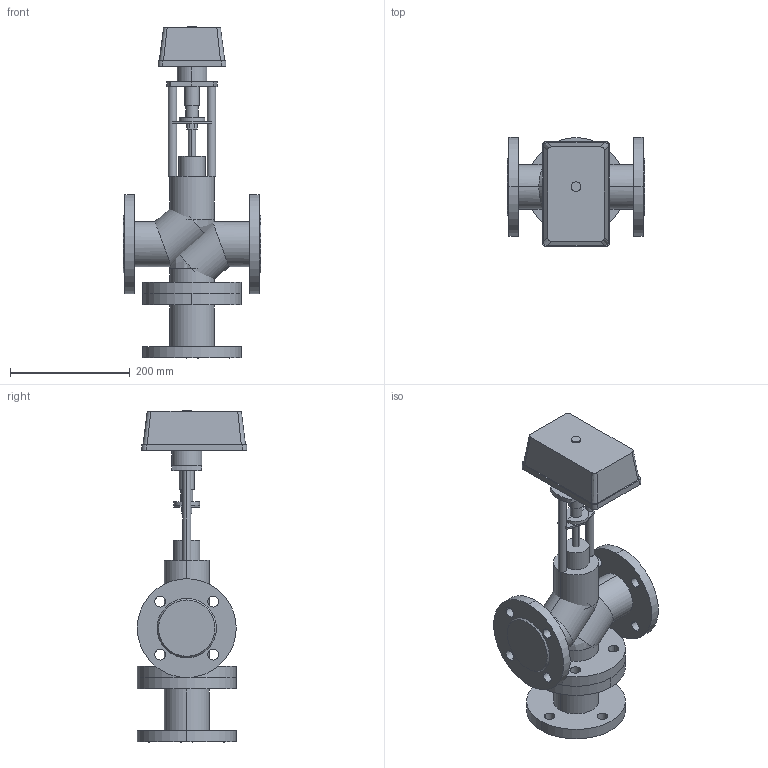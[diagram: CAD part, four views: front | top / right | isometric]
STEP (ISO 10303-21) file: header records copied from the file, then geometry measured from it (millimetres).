
FILE_DESCRIPTION(/* description */ (''),/* implementation_level */ '2;1');
FILE_NAME(/* name */ 'ТРК DN50 PN 2.5 МПа МИЭП-1 1600',/* time_stamp */ '2026-07-14T23:29:32+03:00',/* author */ (''),/* organization */ (''),/* preprocessor_version */ 'ST-DEVELOPER v20',/* originating_system */ '',/* authorisation */ '');
FILE_SCHEMA (('AP242_MANAGED_MODEL_BASED_3D_ENGINEERING_MIM_LF { 1 0 10303 442 1 1 4 }'));
Length unit declared in the file: millimetre
Products named in the file (17): TopLevelAssembly; Выдавливание; Модификатор; Модификатор_1; Выдавливание_
1; Выдавливание_
2; Вращение; Выдавливание_
3; Выдавливание_
4; Выдавливание_
5; Выдавливание_
6; Выдавливание_
7; 1600; Переход; Объемная геометрия 
присоединена; Полый Выдавливание; Объемная геометрия 
присоединена_1
Assembly tree (16 placements, depth 2):
  TopLevelAssembly
    Выдавливание
    Модификатор
    Модификатор_1
    Выдавливание_
1
    Выдавливание_
2
    Вращение
    Выдавливание_
3
    Выдавливание_
4
    Выдавливание_
5
    Выдавливание_
6
    Выдавливание_
7
    1600
    Переход
    Объемная геометрия 
присоединена
    Полый Выдавливание
    Объемная геометрия 
присоединена_1
Bounding box: 230 x 182.5 x 554 mm (x, y, z)
Volume: 5610368.8 mm3; surface area: 676556.2 mm2
Topology: 26 solids, 26 shells, 203 faces, 435 edges, 278 vertices
Faces by surface type: cylinder 106, plane 85, bspline 8, cone 4
Entity records: 6317 total; most frequent: CARTESIAN_POINT 1129, DIRECTION 1115, ORIENTED_EDGE 854, AXIS2_PLACEMENT_3D 460, EDGE_CURVE 427, VERTEX_POINT 278, EDGE_LOOP 253, CIRCLE 224
